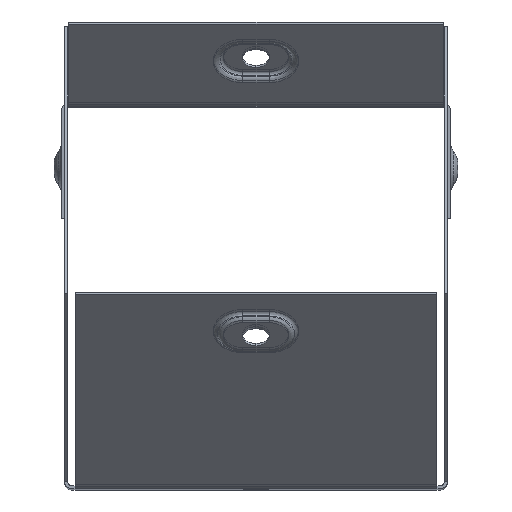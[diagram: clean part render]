
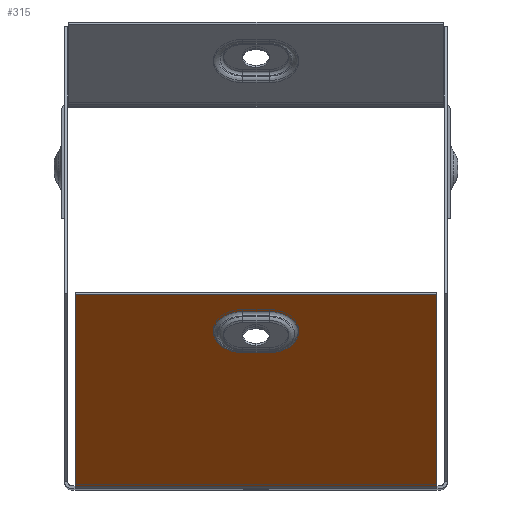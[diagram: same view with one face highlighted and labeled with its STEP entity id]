
A CAD part, top view. The second image highlights one B-rep face of the part: STEP entity #315.
In plain terms, the highlighted planar face has unit normal (0, -0.707, 0.707).
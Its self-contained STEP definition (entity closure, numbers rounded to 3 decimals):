
#218 = CARTESIAN_POINT ( 'NONE',  ( 3.5, -65.337, 139.713 ) ) ;
#315 = ADVANCED_FACE ( 'NONE', ( #7090, #10216 ), #3446, .F. ) ;
#387 = DIRECTION ( 'NONE',  ( -1., 0., 0. ) ) ;
#582 = LINE ( 'NONE', #5148, #3160 ) ;
#724 = VERTEX_POINT ( 'NONE', #4450 ) ;
#1118 = CIRCLE ( 'NONE', #3938, 7.598 ) ;
#1940 = CARTESIAN_POINT ( 'NONE',  ( 3.5, -54.592, 150.458 ) ) ;
#2021 = DIRECTION ( 'NONE',  ( 0., 0.707, 0.707 ) ) ;
#2247 = EDGE_CURVE ( 'NONE', #11056, #7593, #4046, .T. ) ;
#2930 = DIRECTION ( 'NONE',  ( 0., 0.707, 0.707 ) ) ;
#3099 = ORIENTED_EDGE ( 'NONE', *, *, #7116, .T. ) ;
#3160 = VECTOR ( 'NONE', #13701, 1000. ) ;
#3428 = CARTESIAN_POINT ( 'NONE',  ( -3.5, -54.592, 150.458 ) ) ;
#3446 = PLANE ( 'NONE',  #12538 ) ;
#3541 = ORIENTED_EDGE ( 'NONE', *, *, #12246, .T. ) ;
#3915 = DIRECTION ( 'NONE',  ( 0., -0.707, -0.707 ) ) ;
#3938 = AXIS2_PLACEMENT_3D ( 'NONE', #12140, #7809, #8858 ) ;
#4046 = LINE ( 'NONE', #5423, #8854 ) ;
#4274 = VERTEX_POINT ( 'NONE', #3428 ) ;
#4289 = DIRECTION ( 'NONE',  ( -1., 0., 0. ) ) ;
#4450 = CARTESIAN_POINT ( 'NONE',  ( -47.299, -50.065, 154.985 ) ) ;
#4518 = CARTESIAN_POINT ( 'NONE',  ( 48.2, -100.8, 104.25 ) ) ;
#4532 = CARTESIAN_POINT ( 'NONE',  ( 48.2, -100.273, 104.777 ) ) ;
#4563 = LINE ( 'NONE', #11623, #8867 ) ;
#4648 = VECTOR ( 'NONE', #9903, 1000. ) ;
#4773 = CARTESIAN_POINT ( 'NONE',  ( 47.299, -100.273, 104.777 ) ) ;
#4821 = ORIENTED_EDGE ( 'NONE', *, *, #6140, .T. ) ;
#4857 = LINE ( 'NONE', #8219, #10918 ) ;
#4873 = CARTESIAN_POINT ( 'NONE',  ( -3.5, -65.337, 139.713 ) ) ;
#5100 = CARTESIAN_POINT ( 'NONE',  ( 3.5, -59.965, 145.085 ) ) ;
#5148 = CARTESIAN_POINT ( 'NONE',  ( 3.5, -54.592, 150.458 ) ) ;
#5255 = ORIENTED_EDGE ( 'NONE', *, *, #2247, .T. ) ;
#5423 = CARTESIAN_POINT ( 'NONE',  ( 47.299, -101.015, 104.035 ) ) ;
#6140 = EDGE_CURVE ( 'NONE', #724, #14052, #4563, .T. ) ;
#6681 = EDGE_LOOP ( 'NONE', ( #4821, #7115, #5255, #12800 ) ) ;
#6686 = LINE ( 'NONE', #11822, #9492 ) ;
#6894 = VERTEX_POINT ( 'NONE', #218 ) ;
#6994 = CARTESIAN_POINT ( 'NONE',  ( -47.299, -100.273, 104.777 ) ) ;
#7090 = FACE_BOUND ( 'NONE', #10587, .T. ) ;
#7115 = ORIENTED_EDGE ( 'NONE', *, *, #7313, .F. ) ;
#7116 = EDGE_CURVE ( 'NONE', #4274, #12922, #582, .T. ) ;
#7313 = EDGE_CURVE ( 'NONE', #11056, #14052, #10025, .T. ) ;
#7593 = VERTEX_POINT ( 'NONE', #13126 ) ;
#7809 = DIRECTION ( 'NONE',  ( 0., 0.707, -0.707 ) ) ;
#8219 = CARTESIAN_POINT ( 'NONE',  ( 48.2, -50.065, 154.985 ) ) ;
#8348 = AXIS2_PLACEMENT_3D ( 'NONE', #5100, #9510, #2930 ) ;
#8437 = ORIENTED_EDGE ( 'NONE', *, *, #8458, .T. ) ;
#8458 = EDGE_CURVE ( 'NONE', #6894, #10071, #6686, .T. ) ;
#8854 = VECTOR ( 'NONE', #2021, 1000. ) ;
#8858 = DIRECTION ( 'NONE',  ( 0., 0.707, 0.707 ) ) ;
#8867 = VECTOR ( 'NONE', #3915, 1000. ) ;
#9114 = DIRECTION ( 'NONE',  ( 0., 0.707, 0.707 ) ) ;
#9492 = VECTOR ( 'NONE', #4289, 1000. ) ;
#9510 = DIRECTION ( 'NONE',  ( 0., 0.707, -0.707 ) ) ;
#9678 = ORIENTED_EDGE ( 'NONE', *, *, #13846, .T. ) ;
#9903 = DIRECTION ( 'NONE',  ( -1., 0., 0. ) ) ;
#10025 = LINE ( 'NONE', #4532, #4648 ) ;
#10071 = VERTEX_POINT ( 'NONE', #4873 ) ;
#10216 = FACE_OUTER_BOUND ( 'NONE', #6681, .T. ) ;
#10587 = EDGE_LOOP ( 'NONE', ( #3099, #3541, #8437, #9678 ) ) ;
#10918 = VECTOR ( 'NONE', #387, 1000. ) ;
#11056 = VERTEX_POINT ( 'NONE', #4773 ) ;
#11623 = CARTESIAN_POINT ( 'NONE',  ( -47.299, -100.8, 104.25 ) ) ;
#11822 = CARTESIAN_POINT ( 'NONE',  ( 3.5, -65.337, 139.713 ) ) ;
#12140 = CARTESIAN_POINT ( 'NONE',  ( -3.5, -59.965, 145.085 ) ) ;
#12246 = EDGE_CURVE ( 'NONE', #12922, #6894, #13232, .T. ) ;
#12429 = DIRECTION ( 'NONE',  ( 0., 0.707, -0.707 ) ) ;
#12538 = AXIS2_PLACEMENT_3D ( 'NONE', #4518, #12429, #9114 ) ;
#12800 = ORIENTED_EDGE ( 'NONE', *, *, #13503, .T. ) ;
#12922 = VERTEX_POINT ( 'NONE', #1940 ) ;
#13126 = CARTESIAN_POINT ( 'NONE',  ( 47.299, -50.065, 154.985 ) ) ;
#13232 = CIRCLE ( 'NONE', #8348, 7.598 ) ;
#13503 = EDGE_CURVE ( 'NONE', #7593, #724, #4857, .T. ) ;
#13701 = DIRECTION ( 'NONE',  ( 1., 0., 0. ) ) ;
#13846 = EDGE_CURVE ( 'NONE', #10071, #4274, #1118, .T. ) ;
#14052 = VERTEX_POINT ( 'NONE', #6994 ) ;
